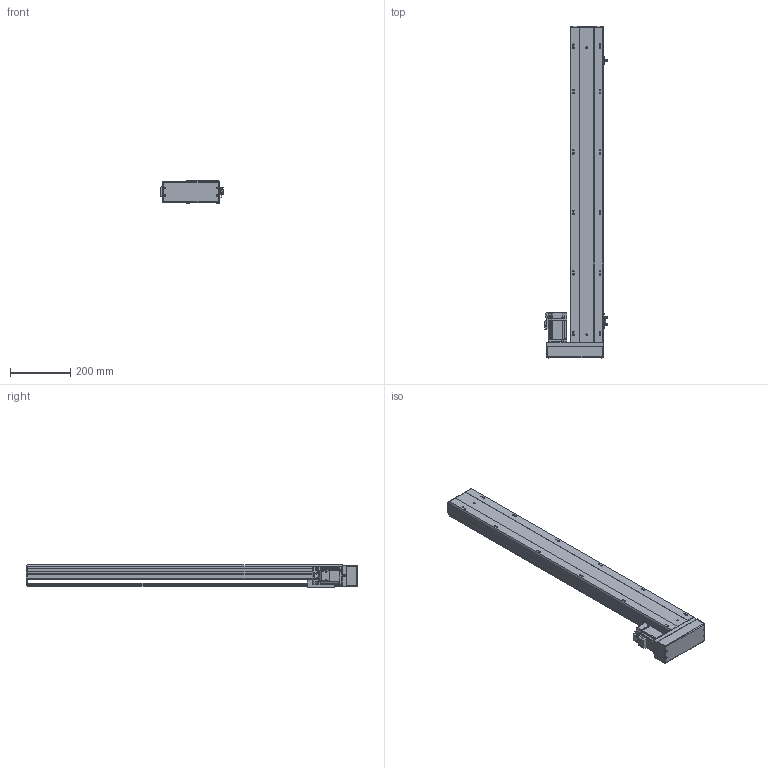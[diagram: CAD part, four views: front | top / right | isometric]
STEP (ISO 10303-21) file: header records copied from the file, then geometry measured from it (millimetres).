
FILE_DESCRIPTION (( 'STEP AP203' ), '1' );
FILE_NAME ('17.STEP', '2020-11-06T08:25:20', ( '' ), ( '' ), 'SwSTEP 2.0', 'SolidWorks 2016', '' );
FILE_SCHEMA (( 'CONFIG_CONTROL_DESIGN' ));
Length unit declared in the file: millimetre
Products named in the file (7): BTH11-BL-01; BTH11-BL-P20; BTH11-BL-02_100; 17; BTH11-BL-BM-BR-菁釱; BTH11-BL-04; BTH11-BL-HZ
Assembly tree (8 placements, depth 2):
  17
    BTH11-BL-BM-BR-菁釱
    BTH11-BL-01
    BTH11-BL-02_100
    BTH11-BL-04  x3
    BTH11-BL-HZ
    BTH11-BL-P20
Bounding box: 208.12 x 1098.65 x 76 mm (x, y, z)
Volume: 4178136.9 mm3; surface area: 887073.9 mm2
Topology: 16 solids, 16 shells, 1617 faces, 4288 edges, 2762 vertices
Faces by surface type: plane 951, cylinder 539, cone 81, bspline 22, torus 16, sphere 8
Entity records: 44535 total; most frequent: CARTESIAN_POINT 9052, DIRECTION 7254, ORIENTED_EDGE 7204, EDGE_CURVE 3602, AXIS2_PLACEMENT_3D 2440, LINE 2374, VECTOR 2374, VERTEX_POINT 2338
